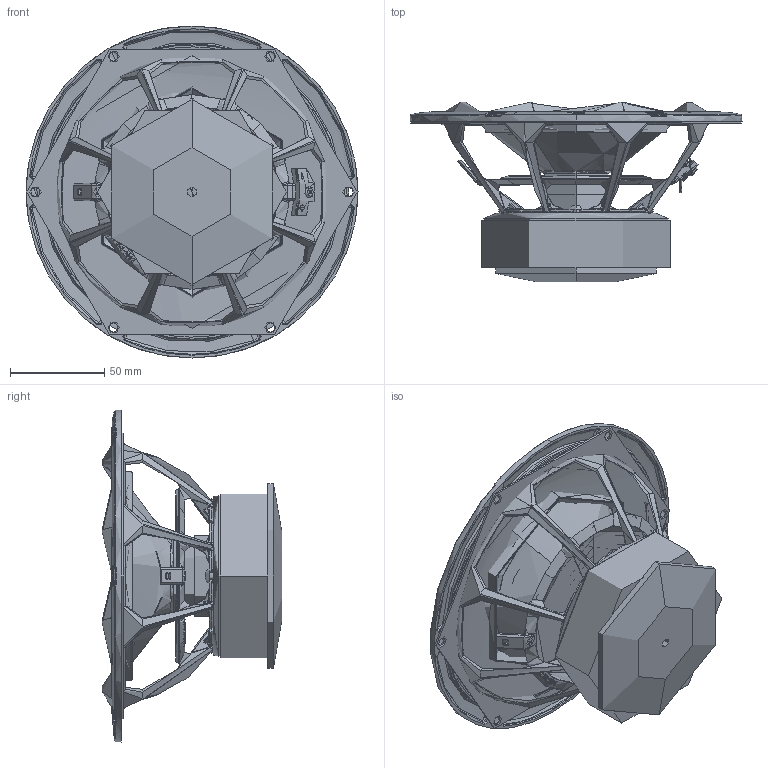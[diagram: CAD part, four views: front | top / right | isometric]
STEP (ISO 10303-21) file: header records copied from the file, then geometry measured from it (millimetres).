
FILE_DESCRIPTION (( 'STEP AP214' ), '1' );
FILE_NAME ('alibrePartClosedBody.STEP', '2020-10-29T14:31:47', ( '' ), ( '' ), 'SwSTEP 2.0', 'SolidWorks 2017', '' );
FILE_SCHEMA (( 'AUTOMOTIVE_DESIGN' ));
Length unit declared in the file: millimetre
Products named in the file (2): alibrePartClosedBody
Bounding box: 176 x 95.27 x 176 mm (x, y, z)
Topology: 0 solids, 30 shells, 2075 faces, 5269 edges, 3132 vertices
Faces by surface type: bspline 1209, plane 348, cylinder 296, cone 201, torus 21
Full cylindrical faces by diameter (mm): 1 x3
Entity records: 259213 total; most frequent: CARTESIAN_POINT 218347, ORIENTED_EDGE 10238, DIRECTION 6057, EDGE_CURVE 5132, VERTEX_POINT 3135, AXIS2_PLACEMENT_3D 2400, EDGE_LOOP 2199, FACE_OUTER_BOUND 2075
